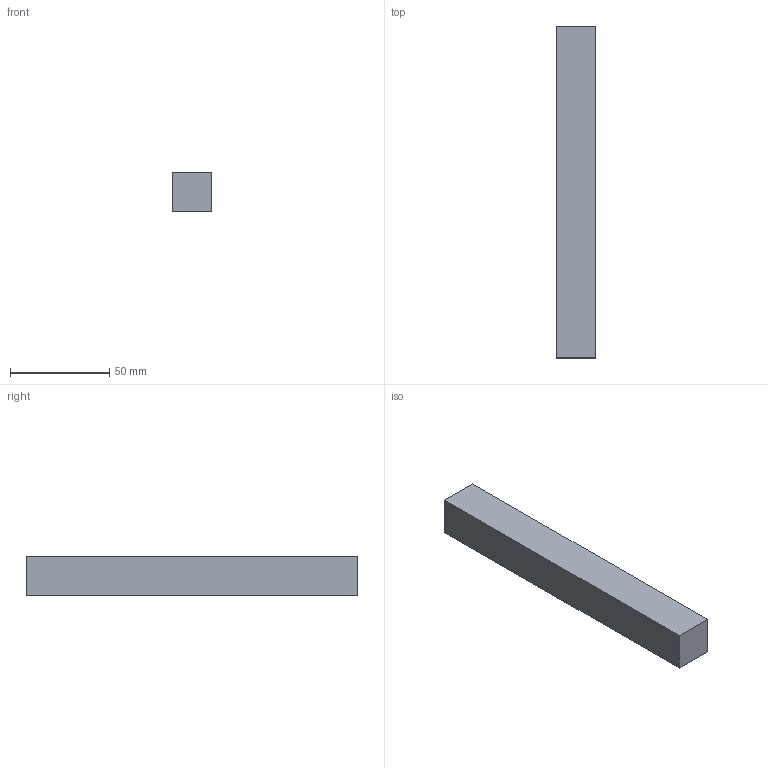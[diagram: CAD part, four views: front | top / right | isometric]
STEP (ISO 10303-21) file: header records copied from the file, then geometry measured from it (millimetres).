
FILE_DESCRIPTION(/* description */ ('STEP AP242','CAx-IF Rec.Pracs.---Representation and Presentation of Product Manufacturing Information (PMI)---4.0---2014-10-13','CAx-IF Rec.Pracs.---3D Tessellated Geometry---0.4---2014-09-14','2;1','CAx-IF Rec.Pracs.---User Defined Attributes---1.5---2016-08-15'),/* implementation_level */ '2;1');
FILE_NAME(/* name */ 'Full Assembly - Part 1 (16)',/* time_stamp */ '2025-11-03T04:00:12Z',/* author */ (''),/* organization */ (''),/* preprocessor_version */ 'ST-DEVELOPER v20',/* originating_system */ 'ONSHAPE BY PTC INC, 1.206',/* authorisation */ ' ');
FILE_SCHEMA (('AP242_MANAGED_MODEL_BASED_3D_ENGINEERING_MIM_LF { 1 0 10303 442 1 1 4 }'));
Length unit declared in the file: metre
Products named in the file (1): Part 1
Bounding box: 20 x 167 x 20 mm (x, y, z)
Volume: 66800 mm3; surface area: 14160 mm2
Topology: 1 solids, 1 shells, 6 faces, 12 edges, 8 vertices
Faces by surface type: plane 6
Entity records: 178 total; most frequent: CARTESIAN_POINT 27, DIRECTION 26, ORIENTED_EDGE 24, EDGE_CURVE 12, LINE 12, VECTOR 12, VERTEX_POINT 8, AXIS2_PLACEMENT_3D 7
